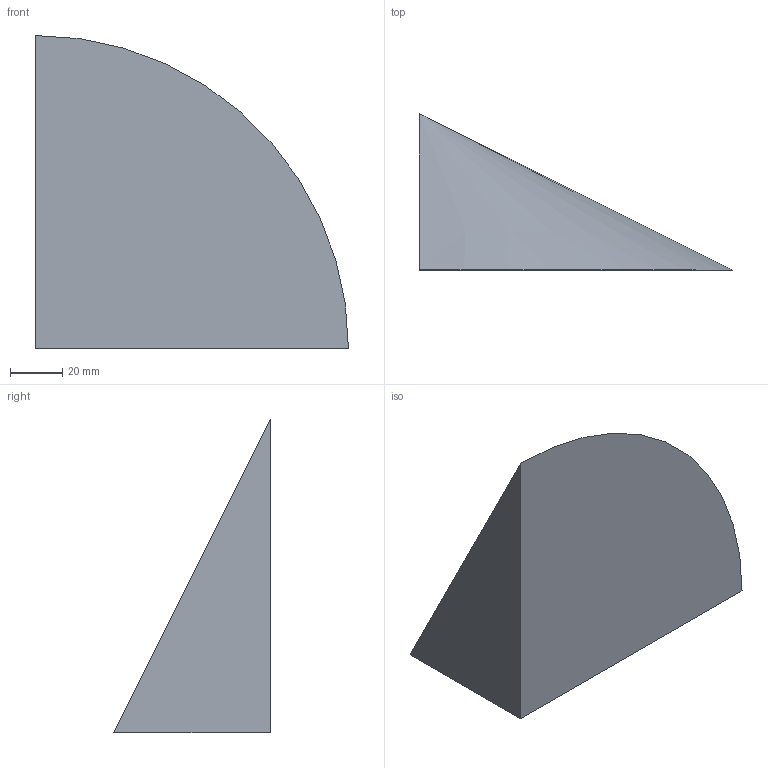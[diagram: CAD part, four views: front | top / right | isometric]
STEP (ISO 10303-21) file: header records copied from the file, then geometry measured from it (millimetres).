
FILE_DESCRIPTION(('CATIA V5 STEP Exchange'),'2;1');
FILE_NAME('C:\_Andres\UNIVERSIDAD\IQS\ASIGNATURAS\DAO\EXF\EXF-16172c\2inicio\Munar_Parra_Ej07_v20.stp','2017-03-05T21:18:13+00:00',('none'),('none'),'CATIA Version 5-6 Release 2014 SP1 HF18','CATIA V5 STEP AP203','none');
FILE_SCHEMA(('CONFIG_CONTROL_DESIGN'));
Length unit declared in the file: millimetre
Products named in the file (1): Munar_Parra_Ej07_v20
Bounding box: 120 x 60 x 120 mm (x, y, z)
Volume: 226194.7 mm3; surface area: 31154.4 mm2
Topology: 1 solids, 1 shells, 4 faces, 7 edges, 4 vertices
Faces by surface type: plane 3, cone 1
Entity records: 131 total; most frequent: CARTESIAN_POINT 15, DIRECTION 14, ORIENTED_EDGE 12, AXIS2_PLACEMENT_3D 6, EDGE_CURVE 6, VECTOR 5, LINE 5, ADVANCED_FACE 4
